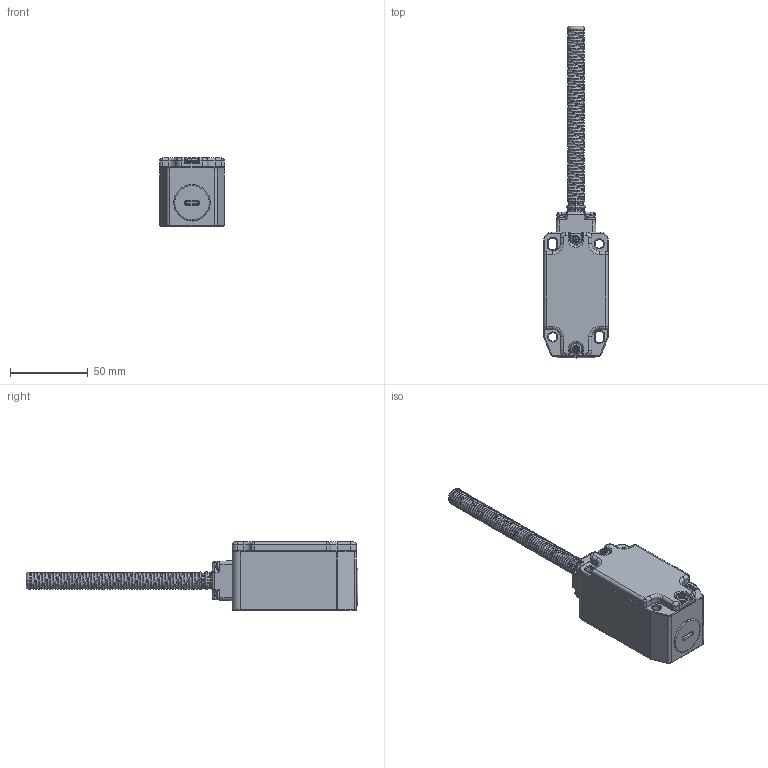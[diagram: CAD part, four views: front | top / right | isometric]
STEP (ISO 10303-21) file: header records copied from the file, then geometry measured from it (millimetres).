
FILE_DESCRIPTION (( 'STEP AP203' ), '1' );
FILE_NAME ('175-HLM-SS (Spring Lever) (step format).STEP', '2014-04-07T09:26:12', ( '' ), ( '' ), 'SwSTEP 2.0', 'SolidWorks 2013', '' );
FILE_SCHEMA (( 'CONFIG_CONTROL_DESIGN' ));
Products named in the file (1): 175-HLM-SS (Spring Lever) (step format)
Bounding box: 41.6 x 214 x 44 mm (x, y, z)
Volume: 68213.5 mm3; surface area: 53102.7 mm2
Topology: 13 solids, 13 shells, 2025 faces, 4553 edges, 2571 vertices
Faces by surface type: cylinder 543, plane 487, cone 484, torus 312, bspline 147, sphere 52
Entity records: 69506 total; most frequent: CARTESIAN_POINT 24829, DIRECTION 9918, ORIENTED_EDGE 8998, EDGE_CURVE 4499, AXIS2_PLACEMENT_3D 3950, VERTEX_POINT 2571, EDGE_LOOP 2124, CIRCLE 2071
